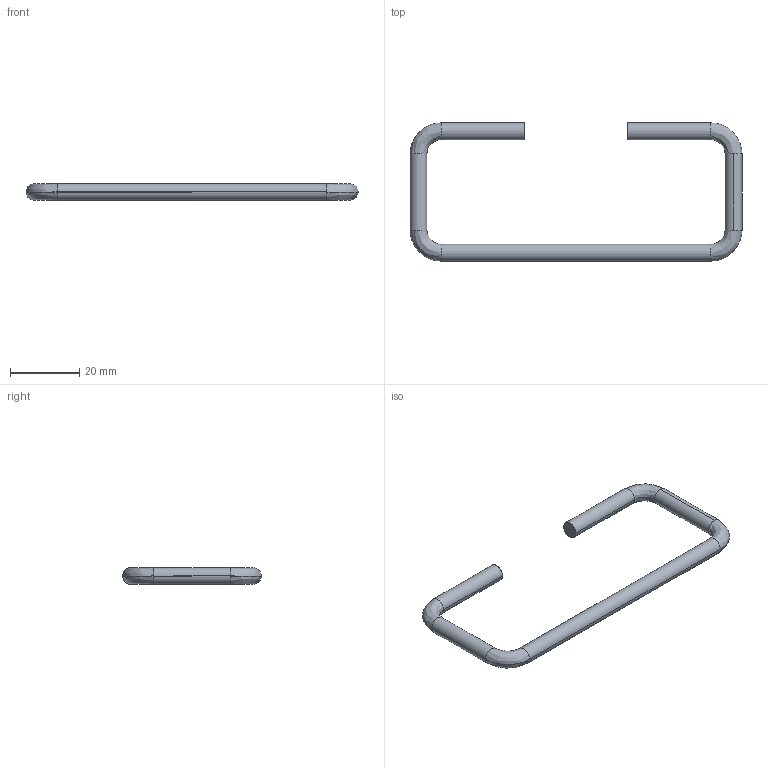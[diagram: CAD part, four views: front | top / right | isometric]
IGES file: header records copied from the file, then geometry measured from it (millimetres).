
Start section: SolidWorks IGES FILE using analytic representation for surfaces
Global section: file name: C:\Documents and Settings\lecoutey\Bureau\PX 399\PX 399 EBR.IGS; native system: SolidWorks 2004 by SolidWorks Corporation; preprocessor: Version 5.3; author: lecoutey; date: 050408.172849; units: millimetre
Bounding box: 96 x 40 x 4.9 mm (x, y, z)
Surface area: 3288.2 mm2 (no closed solid volume)
Topology: 0 solids, 0 shells, 20 faces, 144 edges, 144 vertices
Faces by surface type: bspline 10, revolution 10
